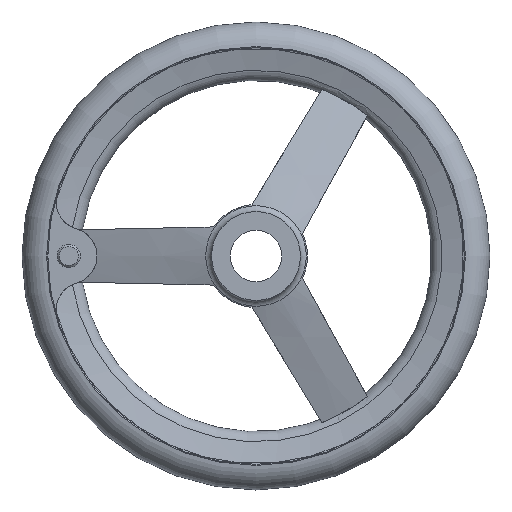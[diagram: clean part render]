
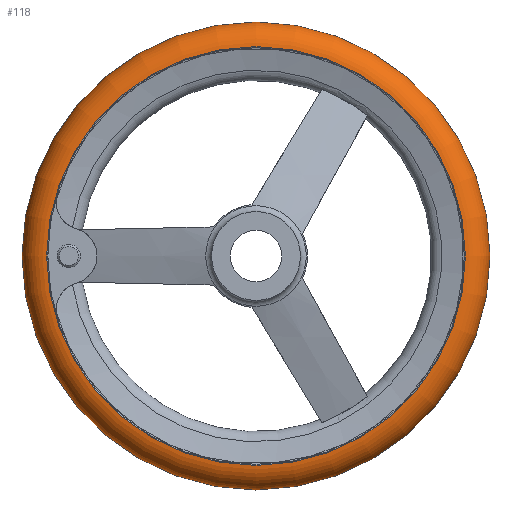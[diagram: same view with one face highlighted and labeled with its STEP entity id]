
A CAD part, left-side view. The second image highlights one B-rep face of the part: STEP entity #118.
In plain terms, the highlighted toroidal (fillet/blend) face has major radius 88.99 mm and minor radius 11.01 mm.
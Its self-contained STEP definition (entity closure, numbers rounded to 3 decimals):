
#118 = ADVANCED_FACE( '', ( #233, #234, #235 ), #236, .T. );
#233 = FACE_BOUND( '', #392, .T. );
#234 = FACE_OUTER_BOUND( '', #393, .T. );
#235 = FACE_OUTER_BOUND( '', #394, .T. );
#236 = TOROIDAL_SURFACE( '', #395, 88.99, 11.01 );
#392 = VERTEX_LOOP( '', #739 );
#393 = EDGE_LOOP( '', ( #740 ) );
#394 = EDGE_LOOP( '', ( #741 ) );
#395 = AXIS2_PLACEMENT_3D( '', #742, #743, #744 );
#739 = VERTEX_POINT( '', #886 );
#740 = ORIENTED_EDGE( '', *, *, #887, .T. );
#741 = ORIENTED_EDGE( '', *, *, #813, .F. );
#742 = CARTESIAN_POINT( '', ( 34., 0., 0. ) );
#743 = DIRECTION( '', ( 1., 0., 0. ) );
#744 = DIRECTION( '', ( 0., 1., 0. ) );
#813 = EDGE_CURVE( '', #960, #960, #961, .T. );
#886 = CARTESIAN_POINT( '', ( 34., 100., 0. ) );
#887 = EDGE_CURVE( '', #1077, #1077, #1078, .T. );
#960 = VERTEX_POINT( '', #1352 );
#961 = CIRCLE( '', #1353, 89.458 );
#1077 = VERTEX_POINT( '', #1780 );
#1078 = CIRCLE( '', #1781, 89.458 );
#1352 = CARTESIAN_POINT( '', ( 45., 89.458, 0. ) );
#1353 = AXIS2_PLACEMENT_3D( '', #1823, #1824, #1825 );
#1780 = CARTESIAN_POINT( '', ( 23., 89.458, 0. ) );
#1781 = AXIS2_PLACEMENT_3D( '', #1937, #1938, #1939 );
#1823 = CARTESIAN_POINT( '', ( 45., 0., 0. ) );
#1824 = DIRECTION( '', ( 1., 0., 0. ) );
#1825 = DIRECTION( '', ( 0., 1., 0. ) );
#1937 = CARTESIAN_POINT( '', ( 23., 0., 0. ) );
#1938 = DIRECTION( '', ( 1., 0., 0. ) );
#1939 = DIRECTION( '', ( 0., 1., 0. ) );
